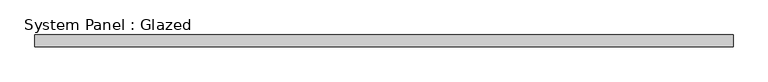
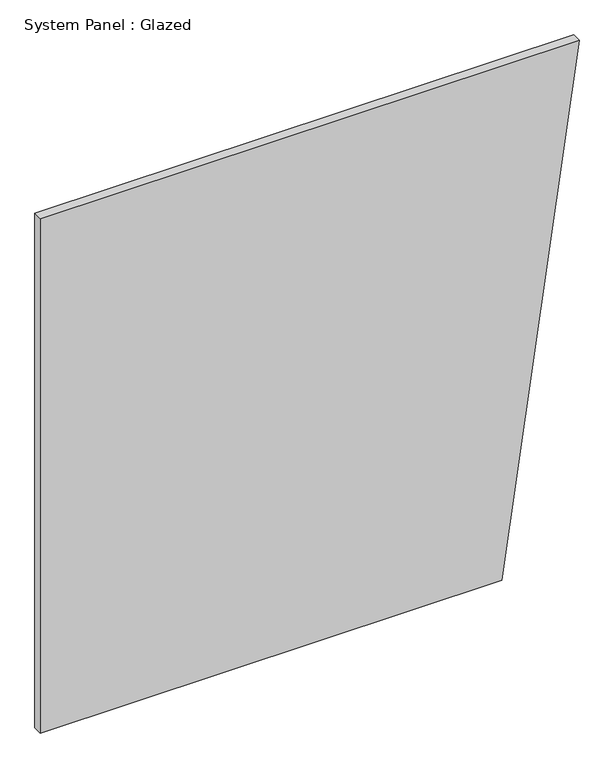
"""IFC4 building model written with IfcOpenShell, lengths in millimetres: plate geometry, System Panel : Glazed."""

from ifc_helpers import new_model, si_unit, frame, origin, place, context, project, spatial, polyline, outline, extrude, source, transform, mapped, element, save


def system_panel_glazed_611664ab(model_context):
    return source(origin(), model_context, "Body", "SweptSolid", [
        extrude(outline(polyline([(0.0, -754.9762284), (0.0, 537.9308733), (1524.0, 754.9762284), (1524.0, -754.9762284), (0.0, -754.9762284)])), frame((0.0, 19.05, 0.0), z_axis=(0.0, 1.0, 0.0), x_axis=(0.0, 0.0, 1.0)), (0.0, 0.0, 1.0), 25.4),
    ])


if __name__ == "__main__":
    model = new_model("IFC4")
    model_context = context("Model", 3, world=origin())
    ifc_project = project(units=[si_unit("LENGTHUNIT", "METRE", prefix="MILLI")], contexts=[model_context])
    site = spatial("IfcSite", under=ifc_project)
    building = spatial("IfcBuilding", under=site)
    placement = place(None, origin())
    system_panel_glazed_shape = system_panel_glazed_611664ab(model_context)
    element("IfcPlate", 1, ObjectType="System Panel : Glazed", at=placement, inside=building, context=model_context, shape_type="MappedRepresentation", body=[
        mapped(system_panel_glazed_shape, transform((0.0, 0.0, 0.0), x_axis=(1.0, 0.0, 0.0), y_axis=(0.0, 1.0, 0.0), z_axis=(0.0, 0.0, 1.0))),
    ])
    save(model, "model.ifc")
